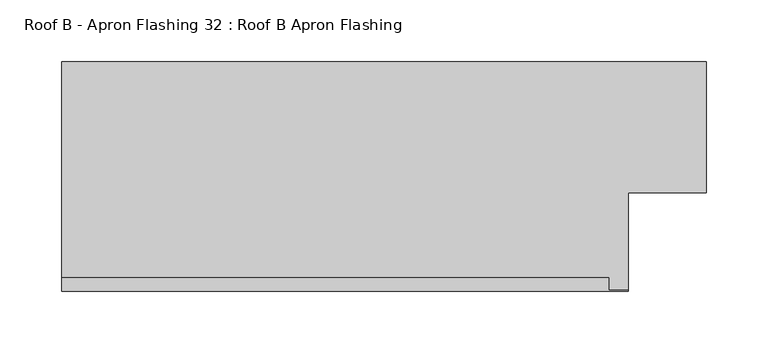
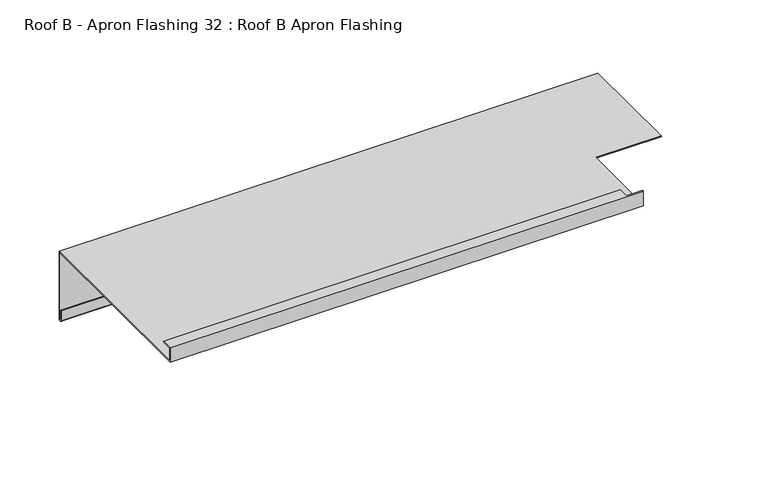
"""IFC4 building model written with IfcOpenShell, lengths in millimetres: proxy geometry, Roof B - Apron Flashing 32 : Roof B Apron Flashing."""

from ifc_helpers import new_model, si_unit, frame, origin, place, context, project, spatial, polyline, circle_curve, source, transform, mapped, element, save
from ifc_brep_helpers import plane_surface, cylinder_surface, revolved_surface, advanced_brep


def roof_b_apron_flashing_32_roof_b_apron_flashing_3b1e6633(model_context):
    return source(origin(), model_context, "Body", "AdvancedBrep", [
        advanced_brep(
        [(16002.834238, -20612.5455269, -986.662203), (16002.834238, -20612.5455269, -1055.0764166), (16002.834238, -20613.5455269, -1055.0764166), (16002.834238, -20613.5455269, -1045.1233066), (16002.834238, -20614.5455269, -1045.1233066), (16002.834238, -20614.5455269, -1055.0764166), (16002.834238, -20611.5455269, -1055.0764166), (16002.834238, -20611.5455269, -985.662203), (16002.834238, -20717.9886752, -985.662203), (16002.834238, -20717.9886752, -986.662203), (15479.5223206, -20611.5455269, -985.662203), (15479.5223206, -20611.5455269, -1055.0764166), (15479.5223206, -20614.5455269, -1055.0764166), (15479.5223206, -20614.5455269, -1045.1233066), (15479.5223206, -20613.5455269, -1045.1233066), (15479.5223206, -20613.5455269, -1055.0764166), (15479.5223206, -20612.5455269, -1055.0764166), (15479.5223206, -20612.5455269, -986.662203), (15479.5223206, -20797.9866572, -986.662203), (15479.5223206, -20797.9866572, -971.662203), (15479.5223206, -20786.9483445, -971.662203), (15479.5223206, -20786.9483445, -972.662203), (15479.5223206, -20796.9866572, -972.662203), (15479.5223206, -20796.9866572, -985.662203), (15939.5223206, -20796.9866572, -985.662203), (15939.5223206, -20717.9886752, -985.662203), (15939.5223206, -20717.9886752, -986.662203), (15939.5223206, -20797.9866572, -986.662203), (15923.3947451, -20796.9866572, -972.662203), (15923.3947451, -20796.9866572, -971.662203), (15939.5223206, -20796.9866572, -971.662203), (15923.3947451, -20786.9483445, -972.662203), (15923.3947451, -20786.9483445, -971.662203), (15939.5223206, -20797.9866572, -971.662203)],
        [
            (0, 1),
            (1, 2, circle_curve(frame((16002.834238, -20613.0455269, -1055.0764166), z_axis=(-1.0, 0.0, 0.0), x_axis=(0.0, 0.0, 1.0)), 0.5)),
            (2, 3),
            (3, 4),
            (4, 5),
            (5, 6, circle_curve(frame((16002.834238, -20613.0455269, -1055.0764166), z_axis=(1.0, 0.0, 0.0), x_axis=(0.0, 0.0, 1.0)), 1.5)),
            (6, 7),
            (7, 8),
            (8, 9),
            (9, 0),
            (10, 11),
            (11, 12, circle_curve(frame((15479.5223206, -20613.0455269, -1055.0764166), z_axis=(-1.0, 0.0, 0.0), x_axis=(0.0, 0.0, 1.0)), 1.5)),
            (12, 13),
            (13, 14),
            (14, 15),
            (15, 16, circle_curve(frame((15479.5223206, -20613.0455269, -1055.0764166), z_axis=(1.0, 0.0, 0.0), x_axis=(0.0, 0.0, 1.0)), 0.5)),
            (16, 17),
            (17, 18),
            (18, 19),
            (19, 20),
            (20, 21),
            (21, 22),
            (22, 23),
            (23, 10),
            (23, 24),
            (24, 25),
            (25, 8),
            (7, 10),
            (17, 0),
            (9, 26),
            (26, 27),
            (27, 18),
            (16, 1),
            (6, 11),
            (22, 28),
            (28, 29),
            (29, 30),
            (30, 24),
            (21, 31),
            (31, 28),
            (20, 32),
            (32, 31),
            (19, 33),
            (33, 30),
            (29, 32),
            (27, 33),
            (15, 2),
            (14, 3),
            (13, 4),
            (12, 5),
            (26, 25),
        ],
        [
            plane_surface(frame((16002.834238, -20806.0187503, -1042.7388515), z_axis=(1.0, 0.0, 0.0), x_axis=(0.0, 1.0, 0.0))),
            plane_surface(frame((15479.5223206, -20806.0187503, -1042.7388515), z_axis=(-1.0, 0.0, 0.0), x_axis=(0.0, 1.0, 0.0))),
            plane_surface(frame((16002.834238, -20611.5455269, -985.662203), z_axis=(0.0, 0.0, 1.0), x_axis=(-1.0, 0.0, 0.0))),
            plane_surface(frame((16002.834238, -20797.9866572, -986.662203), z_axis=(0.0, 0.0, -1.0), x_axis=(-1.0, 0.0, 0.0))),
            plane_surface(frame((16002.834238, -20612.5455269, -986.662203), z_axis=(0.0, -1.0, 0.0), x_axis=(-1.0, 0.0, 0.0))),
            plane_surface(frame((16002.834238, -20611.5455269, -1055.0764166), z_axis=(0.0, 1.0, 0.0), x_axis=(-1.0, 0.0, 0.0))),
            plane_surface(frame((16002.834238, -20796.9866572, -985.662203), z_axis=(0.0, 1.0, 0.0), x_axis=(-1.0, 0.0, 0.0))),
            plane_surface(frame((16002.834238, -20796.9866572, -972.662203), z_axis=(0.0, 0.0, -1.0), x_axis=(-1.0, 0.0, 0.0))),
            plane_surface(frame((16002.834238, -20786.9483445, -972.662203), z_axis=(0.0, 1.0, 0.0), x_axis=(-1.0, 0.0, 0.0))),
            plane_surface(frame((16002.834238, -20786.9483445, -971.662203), z_axis=(0.0, 0.0, 1.0), x_axis=(-1.0, 0.0, 0.0))),
            plane_surface(frame((16002.834238, -20797.9866572, -971.662203), z_axis=(0.0, -1.0, 0.0), x_axis=(-1.0, 0.0, 0.0))),
            revolved_surface(polyline([(15479.5223206, -20613.0455269, -1054.5764166), (16002.834238, -20613.0455269, -1054.5764166)]), (16002.834238, -20613.0455269, -1055.0764166), (-1.0, 0.0, 0.0)),
            plane_surface(frame((16002.834238, -20613.5455269, -1055.0764166), z_axis=(0.0, 1.0, 0.0), x_axis=(-1.0, 0.0, 0.0))),
            plane_surface(frame((16002.834238, -20613.5455269, -1045.1233066), z_axis=(0.0, 0.0, 1.0), x_axis=(-1.0, 0.0, 0.0))),
            plane_surface(frame((16002.834238, -20614.5455269, -1045.1233066), z_axis=(0.0, -1.0, 0.0), x_axis=(-1.0, 0.0, 0.0))),
            cylinder_surface(frame((16002.834238, -20613.0455269, -1055.0764166), z_axis=(1.0, 0.0, 0.0), x_axis=(0.0, 0.0, 1.0)), 1.5),
            plane_surface(frame((15939.5223206, -20717.9886752, -1079.9089722), z_axis=(1.0, 0.0, 0.0), x_axis=(0.0, -0.9659258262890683, 0.25881904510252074))),
            plane_surface(frame((15939.5223206, -20717.9886752, -852.4830665), z_axis=(0.0, -1.0, 0.0), x_axis=(1.0, 0.0, 0.0))),
            plane_surface(frame((15923.3947451, -20796.9866064, -884.3834078), z_axis=(1.0, 0.0, 0.0), x_axis=(0.0, 0.0, -1.0))),
        ],
        [
            (0, [[1, 2, 3, 4, 5, 6, 7, 8, 9, 10]]),
            (1, [[11, 12, 13, 14, 15, 16, 17, 18, 19, 20, 21, 22, 23, 24]]),
            (2, [[-24, 25, 26, 27, -8, 28]]),
            (3, [[-18, 29, -10, 30, 31, 32]]),
            (4, [[-1, -29, -17, 33]]),
            (5, [[-7, 34, -11, -28]]),
            (6, [[-23, 35, 36, 37, 38, -25]]),
            (7, [[-22, 39, 40, -35]]),
            (8, [[-21, 41, 42, -39]]),
            (9, [[-20, 43, 44, -37, 45, -41]]),
            (10, [[-19, -32, 46, -43]]),
            (11, [[-2, -33, -16, 47]]),
            (12, [[-3, -47, -15, 48]]),
            (13, [[-4, -48, -14, 49]]),
            (14, [[-5, -49, -13, 50]]),
            (15, [[-6, -50, -12, -34]]),
            (16, [[51, -26, -38, -44, -46, -31]]),
            (17, [[-51, -30, -9, -27]]),
            (18, [[-36, -40, -42, -45]]),
        ],
    ),
    ])


if __name__ == "__main__":
    model = new_model("IFC4")
    model_context = context("Model", 3, world=origin())
    ifc_project = project(units=[si_unit("LENGTHUNIT", "METRE", prefix="MILLI")], contexts=[model_context])
    site = spatial("IfcSite", under=ifc_project)
    building = spatial("IfcBuilding", under=site)
    placement = place(None, origin())
    roof_b_apron_flashing_32_roof_b_apron_flashing_shape = roof_b_apron_flashing_32_roof_b_apron_flashing_3b1e6633(model_context)
    element("IfcBuildingElementProxy", 1, Name="Roof B - Apron Flashing 32 : Roof B Apron Flashing", ObjectType="Roof B - Apron Flashing 32 : Roof B Apron Flashing", at=placement, inside=building, context=model_context, shape_type="MappedRepresentation", body=[
        mapped(roof_b_apron_flashing_32_roof_b_apron_flashing_shape, transform((0.0, 0.0, 0.0), x_axis=(1.0, 0.0, 0.0), y_axis=(0.0, 1.0, 0.0), z_axis=(0.0, 0.0, 1.0))),
    ])
    save(model, "model.ifc")
